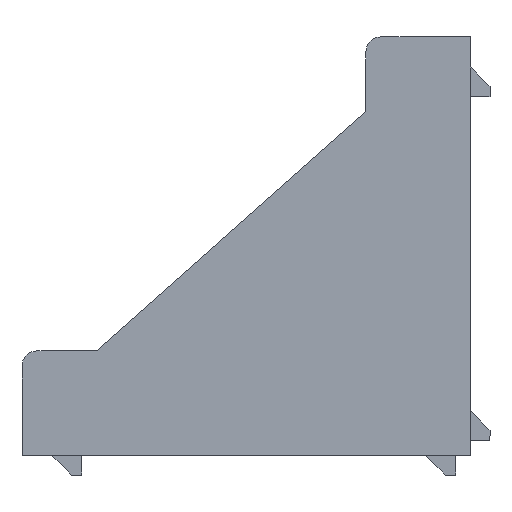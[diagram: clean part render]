
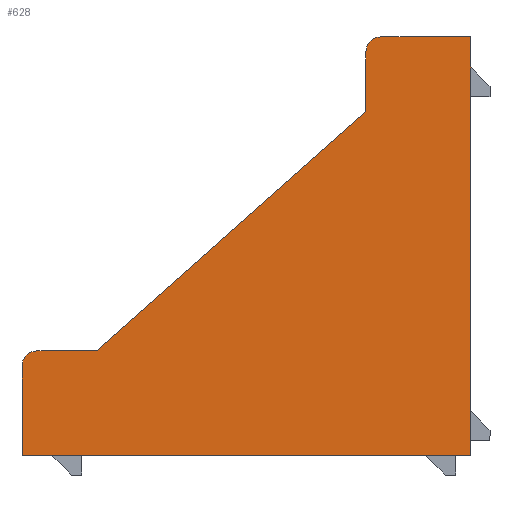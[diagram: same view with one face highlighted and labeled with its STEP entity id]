
A CAD part, left-side view. The second image highlights one B-rep face of the part: STEP entity #628.
In plain terms, the highlighted planar face has unit normal (-1, 0, 0).
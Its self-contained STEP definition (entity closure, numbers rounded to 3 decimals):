
#14 = CARTESIAN_POINT ( 'NONE',  ( -15., -15., -14. ) ) ;
#26 = AXIS2_PLACEMENT_3D ( 'NONE', #1029, #286, #1157 ) ;
#55 = AXIS2_PLACEMENT_3D ( 'NONE', #406, #398, #387 ) ;
#65 = VECTOR ( 'NONE', #524, 1000. ) ;
#70 = VECTOR ( 'NONE', #529, 1000. ) ;
#82 = EDGE_LOOP ( 'NONE', ( #401, #525, #1483, #300, #1209, #1108, #544, #353, #580 ) ) ;
#152 = VECTOR ( 'NONE', #1470, 1000. ) ;
#181 = EDGE_CURVE ( 'NONE', #199, #466, #1482, .T. ) ;
#199 = VERTEX_POINT ( 'NONE', #1269 ) ;
#200 = VECTOR ( 'NONE', #1589, 1000. ) ;
#229 = EDGE_CURVE ( 'NONE', #512, #1054, #423, .T. ) ;
#234 = CARTESIAN_POINT ( 'NONE',  ( -15., -9., 14. ) ) ;
#236 = DIRECTION ( 'NONE',  ( 0., 1., 0. ) ) ;
#237 = EDGE_CURVE ( 'NONE', #1291, #804, #1081, .T. ) ;
#244 = LINE ( 'NONE', #988, #200 ) ;
#286 = DIRECTION ( 'NONE',  ( -1., 0., 0. ) ) ;
#300 = ORIENTED_EDGE ( 'NONE', *, *, #1041, .T. ) ;
#302 = CARTESIAN_POINT ( 'NONE',  ( -15., 0., 0. ) ) ;
#326 = CARTESIAN_POINT ( 'NONE',  ( -15., -15., -14. ) ) ;
#353 = ORIENTED_EDGE ( 'NONE', *, *, #1212, .F. ) ;
#387 = DIRECTION ( 'NONE',  ( 0., 0., -1. ) ) ;
#395 = CARTESIAN_POINT ( 'NONE',  ( -15., 15., -7. ) ) ;
#398 = DIRECTION ( 'NONE',  ( -1., 0., 0. ) ) ;
#401 = ORIENTED_EDGE ( 'NONE', *, *, #517, .F. ) ;
#406 = CARTESIAN_POINT ( 'NONE',  ( -15., 14., -8. ) ) ;
#423 = CIRCLE ( 'NONE', #55, 1. ) ;
#428 = LINE ( 'NONE', #395, #70 ) ;
#429 = DIRECTION ( 'NONE',  ( 1., 0., 0. ) ) ;
#443 = VERTEX_POINT ( 'NONE', #579 ) ;
#464 = FACE_OUTER_BOUND ( 'NONE', #82, .T. ) ;
#466 = VERTEX_POINT ( 'NONE', #326 ) ;
#512 = VERTEX_POINT ( 'NONE', #1464 ) ;
#517 = EDGE_CURVE ( 'NONE', #1455, #199, #244, .T. ) ;
#524 = DIRECTION ( 'NONE',  ( 0., 0., -1. ) ) ;
#525 = ORIENTED_EDGE ( 'NONE', *, *, #997, .T. ) ;
#529 = DIRECTION ( 'NONE',  ( 0., 1., 0. ) ) ;
#532 = CARTESIAN_POINT ( 'NONE',  ( -15., -8., 9. ) ) ;
#544 = ORIENTED_EDGE ( 'NONE', *, *, #545, .F. ) ;
#545 = EDGE_CURVE ( 'NONE', #443, #1054, #1481, .T. ) ;
#579 = CARTESIAN_POINT ( 'NONE',  ( -15., 15., -14. ) ) ;
#580 = ORIENTED_EDGE ( 'NONE', *, *, #181, .F. ) ;
#615 = CARTESIAN_POINT ( 'NONE',  ( -15., 15., -14. ) ) ;
#627 = CARTESIAN_POINT ( 'NONE',  ( -15., -8., 13. ) ) ;
#628 = ADVANCED_FACE ( 'NONE', ( #464 ), #1040, .F. ) ;
#651 = VERTEX_POINT ( 'NONE', #1534 ) ;
#659 = CARTESIAN_POINT ( 'NONE',  ( -15., 10., -7. ) ) ;
#780 = CARTESIAN_POINT ( 'NONE',  ( -15., -8., 9. ) ) ;
#804 = VERTEX_POINT ( 'NONE', #780 ) ;
#947 = VECTOR ( 'NONE', #236, 1000. ) ;
#948 = VECTOR ( 'NONE', #1181, 1000. ) ;
#983 = LINE ( 'NONE', #659, #948 ) ;
#988 = CARTESIAN_POINT ( 'NONE',  ( -15., -15., 14. ) ) ;
#992 = CARTESIAN_POINT ( 'NONE',  ( -15., -15., -14. ) ) ;
#997 = EDGE_CURVE ( 'NONE', #1455, #1291, #1337, .T. ) ;
#1029 = CARTESIAN_POINT ( 'NONE',  ( -15., -9., 13. ) ) ;
#1040 = PLANE ( 'NONE',  #1279 ) ;
#1041 = EDGE_CURVE ( 'NONE', #804, #651, #983, .T. ) ;
#1054 = VERTEX_POINT ( 'NONE', #1414 ) ;
#1081 = LINE ( 'NONE', #532, #65 ) ;
#1108 = ORIENTED_EDGE ( 'NONE', *, *, #229, .T. ) ;
#1157 = DIRECTION ( 'NONE',  ( 0., 0., -1. ) ) ;
#1164 = VECTOR ( 'NONE', #1614, 1000. ) ;
#1181 = DIRECTION ( 'NONE',  ( 0., 0.747, -0.664 ) ) ;
#1209 = ORIENTED_EDGE ( 'NONE', *, *, #1623, .T. ) ;
#1212 = EDGE_CURVE ( 'NONE', #466, #443, #1266, .T. ) ;
#1266 = LINE ( 'NONE', #992, #947 ) ;
#1269 = CARTESIAN_POINT ( 'NONE',  ( -15., -15., 14. ) ) ;
#1279 = AXIS2_PLACEMENT_3D ( 'NONE', #302, #429, #1294 ) ;
#1291 = VERTEX_POINT ( 'NONE', #627 ) ;
#1294 = DIRECTION ( 'NONE',  ( 0., 0., -1. ) ) ;
#1337 = CIRCLE ( 'NONE', #26, 1. ) ;
#1414 = CARTESIAN_POINT ( 'NONE',  ( -15., 15., -8. ) ) ;
#1455 = VERTEX_POINT ( 'NONE', #234 ) ;
#1464 = CARTESIAN_POINT ( 'NONE',  ( -15., 14., -7. ) ) ;
#1470 = DIRECTION ( 'NONE',  ( 0., 0., 1. ) ) ;
#1481 = LINE ( 'NONE', #615, #152 ) ;
#1482 = LINE ( 'NONE', #14, #1164 ) ;
#1483 = ORIENTED_EDGE ( 'NONE', *, *, #237, .T. ) ;
#1534 = CARTESIAN_POINT ( 'NONE',  ( -15., 10., -7. ) ) ;
#1589 = DIRECTION ( 'NONE',  ( 0., -1., 0. ) ) ;
#1614 = DIRECTION ( 'NONE',  ( 0., 0., -1. ) ) ;
#1623 = EDGE_CURVE ( 'NONE', #651, #512, #428, .T. ) ;
